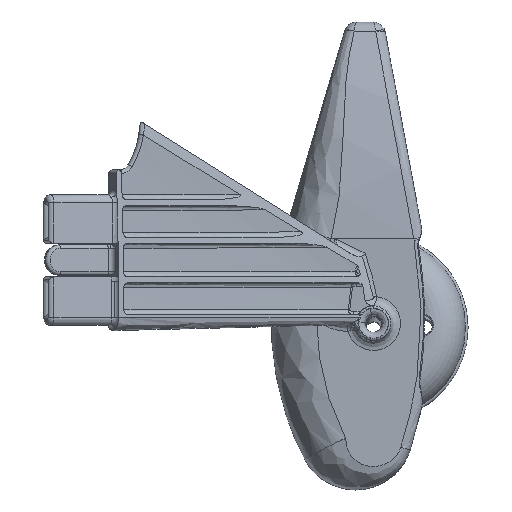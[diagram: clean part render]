
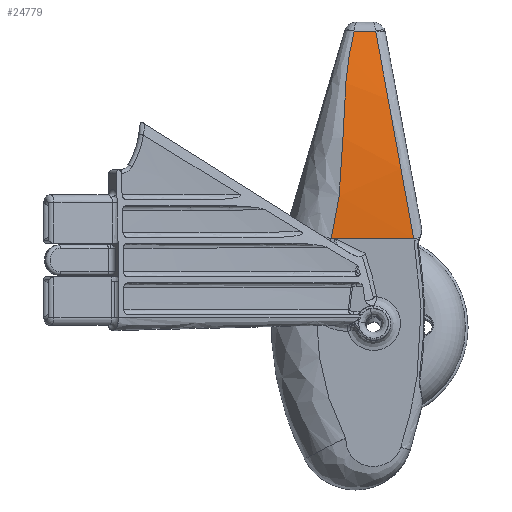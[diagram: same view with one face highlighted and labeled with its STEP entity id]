
A CAD part, left-side view. The second image highlights one B-rep face of the part: STEP entity #24779.
In plain terms, the highlighted cylindrical face has radius 203.5 mm (diameter 407 mm), a partial arc.
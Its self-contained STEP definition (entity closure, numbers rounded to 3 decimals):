
#94 = EDGE_LOOP ( 'NONE', ( #10375, #36165, #21208, #18651, #3860 ) ) ;
#3860 = ORIENTED_EDGE ( 'NONE', *, *, #16258, .F. ) ;
#4192 = CARTESIAN_POINT ( 'NONE',  ( 50.334, -73.383, 86.541 ) ) ;
#4614 = CARTESIAN_POINT ( 'NONE',  ( 50.559, -73.561, 87.23 ) ) ;
#4656 = CARTESIAN_POINT ( 'NONE',  ( 50.559, -73.561, 87.23 ) ) ;
#4826 = AXIS2_PLACEMENT_3D ( 'NONE', #34047, #44672, #12703 ) ;
#5233 = LINE ( 'NONE', #44986, #43109 ) ;
#6624 = CARTESIAN_POINT ( 'NONE',  ( 50.536, -80.14, 87.157 ) ) ;
#7287 = VERTEX_POINT ( 'NONE', #32054 ) ;
#7549 = CARTESIAN_POINT ( 'NONE',  ( 40.487, -96.969, 24. ) ) ;
#7715 = B_SPLINE_CURVE_WITH_KNOTS ( 'NONE', 3,
 ( #42028, #16018, #6624, #27223 ),
 .UNSPECIFIED., .F., .F.,
 ( 4, 4 ),
 ( 0., 1. ),
 .UNSPECIFIED. ) ;
#8041 = CARTESIAN_POINT ( 'NONE',  ( 48.224, -71.979, 79.657 ) ) ;
#9676 = VECTOR ( 'NONE', #17792, 1000. ) ;
#10375 = ORIENTED_EDGE ( 'NONE', *, *, #36741, .F. ) ;
#11099 = CARTESIAN_POINT ( 'NONE',  ( 40.724, -68.932, 35.503 ) ) ;
#12703 = DIRECTION ( 'NONE',  ( 0., 0., -1. ) ) ;
#12728 = VERTEX_POINT ( 'NONE', #4614 ) ;
#13873 = CARTESIAN_POINT ( 'NONE',  ( 43.889, -83.874, 66.765 ) ) ;
#15570 = FACE_OUTER_BOUND ( 'NONE', #94, .T. ) ;
#16018 = CARTESIAN_POINT ( 'NONE',  ( 50.549, -80.129, 87.2 ) ) ;
#16258 = EDGE_CURVE ( 'NONE', #12728, #18885, #5233, .T. ) ;
#17380 = EDGE_CURVE ( 'NONE', #7287, #29662, #40248, .T. ) ;
#17792 = DIRECTION ( 'NONE',  ( 0., -1., 0. ) ) ;
#17999 = CARTESIAN_POINT ( 'NONE',  ( 40.487, -66.574, 24. ) ) ;
#18651 = ORIENTED_EDGE ( 'NONE', *, *, #31125, .F. ) ;
#18885 = VERTEX_POINT ( 'NONE', #27994 ) ;
#18941 = EDGE_CURVE ( 'NONE', #21923, #29662, #45448, .T. ) ;
#21208 = ORIENTED_EDGE ( 'NONE', *, *, #17380, .F. ) ;
#21923 = VERTEX_POINT ( 'NONE', #42643 ) ;
#24779 = ADVANCED_FACE ( 'NONE', ( #15570 ), #42466, .T. ) ;
#25240 = CARTESIAN_POINT ( 'NONE',  ( 44.635, -70.58, 65.325 ) ) ;
#25704 = CARTESIAN_POINT ( 'NONE',  ( 45.944, -70.889, 71.178 ) ) ;
#27223 = CARTESIAN_POINT ( 'NONE',  ( 50.521, -80.148, 87.113 ) ) ;
#27994 = CARTESIAN_POINT ( 'NONE',  ( 50.564, -80.124, 87.244 ) ) ;
#28050 = CARTESIAN_POINT ( 'NONE',  ( 40.487, -68.122, 29.622 ) ) ;
#28648 = CARTESIAN_POINT ( 'NONE',  ( 50.111, -73.216, 85.847 ) ) ;
#29354 = B_SPLINE_CURVE_WITH_KNOTS ( 'NONE', 3,
 ( #17999, #28050, #11099, #32586, #35812, #25240, #25704, #8041, #35642, #28648, #4192, #4656 ),
 .UNSPECIFIED., .F., .F.,
 ( 4, 2, 2, 2, 2, 4 ),
 ( 0., 0.263, 0.526, 0.789, 0.921, 0.954 ),
 .UNSPECIFIED. ) ;
#29662 = VERTEX_POINT ( 'NONE', #32238 ) ;
#31125 = EDGE_CURVE ( 'NONE', #18885, #7287, #7715, .T. ) ;
#32054 = CARTESIAN_POINT ( 'NONE',  ( 50.521, -80.148, 87.113 ) ) ;
#32238 = CARTESIAN_POINT ( 'NONE',  ( 40.487, -91.704, 24. ) ) ;
#32586 = CARTESIAN_POINT ( 'NONE',  ( 41.75, -69.918, 47.415 ) ) ;
#34047 = CARTESIAN_POINT ( 'NONE',  ( 243.987, -96.969, 24. ) ) ;
#34355 = DIRECTION ( 'NONE',  ( 0., -1., 0. ) ) ;
#34881 = CARTESIAN_POINT ( 'NONE',  ( 50.521, -80.148, 87.113 ) ) ;
#35642 = CARTESIAN_POINT ( 'NONE',  ( 49.036, -72.446, 82.433 ) ) ;
#35812 = CARTESIAN_POINT ( 'NONE',  ( 42.537, -70.095, 53.443 ) ) ;
#36165 = ORIENTED_EDGE ( 'NONE', *, *, #18941, .T. ) ;
#36741 = EDGE_CURVE ( 'NONE', #21923, #12728, #29354, .T. ) ;
#40248 = B_SPLINE_CURVE_WITH_KNOTS ( 'NONE', 3,
 ( #34881, #13873, #41971, #45539 ),
 .UNSPECIFIED., .F., .F.,
 ( 4, 4 ),
 ( 0.045, 1. ),
 .UNSPECIFIED. ) ;
#41971 = CARTESIAN_POINT ( 'NONE',  ( 40.487, -87.787, 45.391 ) ) ;
#42028 = CARTESIAN_POINT ( 'NONE',  ( 50.564, -80.124, 87.244 ) ) ;
#42466 = CYLINDRICAL_SURFACE ( 'NONE', #4826, 203.5 ) ;
#42643 = CARTESIAN_POINT ( 'NONE',  ( 40.487, -66.574, 24. ) ) ;
#43109 = VECTOR ( 'NONE', #34355, 1000. ) ;
#44672 = DIRECTION ( 'NONE',  ( 0., 1., 0. ) ) ;
#44986 = CARTESIAN_POINT ( 'NONE',  ( 50.563, -96.969, 87.243 ) ) ;
#45448 = LINE ( 'NONE', #7549, #9676 ) ;
#45539 = CARTESIAN_POINT ( 'NONE',  ( 40.487, -91.704, 24. ) ) ;
